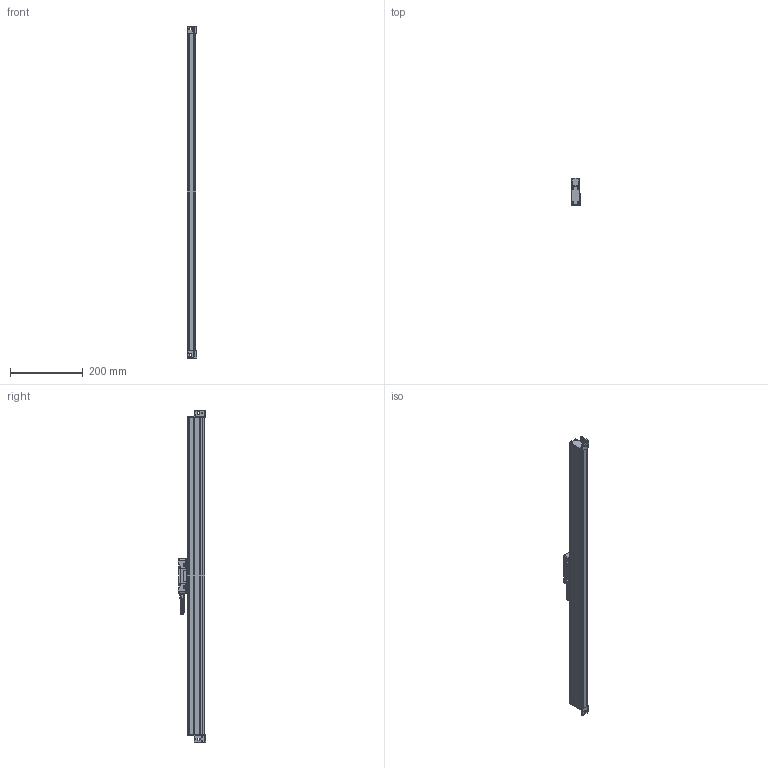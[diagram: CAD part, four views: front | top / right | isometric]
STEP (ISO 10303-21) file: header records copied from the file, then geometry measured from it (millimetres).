
FILE_DESCRIPTION (( 'STEP AP214' ), '1' );
FILE_NAME ('MLC310x0750.STEP', '2021-05-08T11:51:24', ( '' ), ( '' ), 'SwSTEP 2.0', 'SolidWorks 2014', '' );
FILE_SCHEMA (( 'AUTOMOTIVE_DESIGN' ));
Length unit declared in the file: millimetre
Products named in the file (1): MLC310x0750
Bounding box: 27 x 75.15 x 914 mm (x, y, z)
Surface area: 164793.6 mm2 (no closed solid volume)
Topology: 0 solids, 20 shells, 415 faces, 1370 edges, 971 vertices
Faces by surface type: plane 166, cylinder 147, cone 73, bspline 23, torus 6
Entity records: 29715 total; most frequent: CARTESIAN_POINT 13518, DIRECTION 2375, ORIENTED_EDGE 2163, EDGE_CURVE 1366, VERTEX_POINT 971, AXIS2_PLACEMENT_3D 825, VECTOR 725, LINE 725
